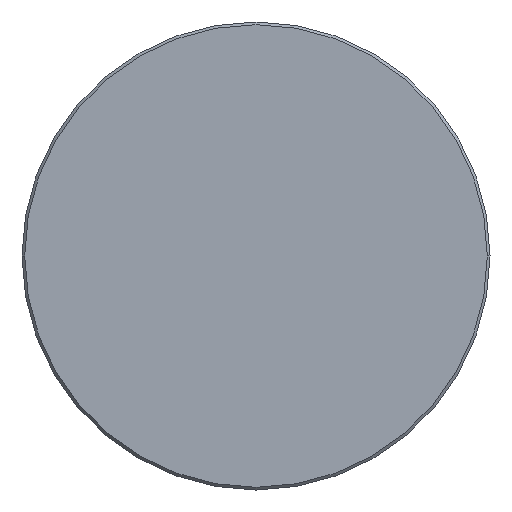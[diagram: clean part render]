
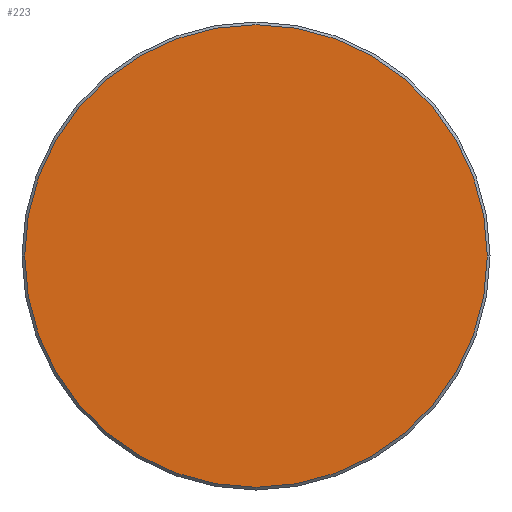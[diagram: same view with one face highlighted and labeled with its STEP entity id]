
A CAD part, left-side view. The second image highlights one B-rep face of the part: STEP entity #223.
In plain terms, the highlighted planar face has unit normal (-1, 0, 0).
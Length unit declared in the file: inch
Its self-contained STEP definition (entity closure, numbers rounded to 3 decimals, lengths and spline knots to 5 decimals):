
#8 = EDGE_CURVE ( 'NONE', #134, #330, #100, .T. ) ;
#17 = PLANE ( 'NONE',  #88 ) ;
#19 = DIRECTION ( 'NONE',  ( -1., 0., 0. ) ) ;
#45 = AXIS2_PLACEMENT_3D ( 'NONE', #87, #263, #91 ) ;
#87 = CARTESIAN_POINT ( 'NONE',  ( 0., 0., 0. ) ) ;
#88 = AXIS2_PLACEMENT_3D ( 'NONE', #104, #19, #276 ) ;
#91 = DIRECTION ( 'NONE',  ( 0., -1., 0. ) ) ;
#100 = CIRCLE ( 'NONE', #45, 0.33975 ) ;
#104 = CARTESIAN_POINT ( 'NONE',  ( 0., 0., 0. ) ) ;
#119 = CARTESIAN_POINT ( 'NONE',  ( 0., 0., 0. ) ) ;
#130 = EDGE_CURVE ( 'NONE', #330, #134, #326, .T. ) ;
#134 = VERTEX_POINT ( 'NONE', #182 ) ;
#169 = EDGE_LOOP ( 'NONE', ( #238, #184 ) ) ;
#182 = CARTESIAN_POINT ( 'NONE',  ( 0., -0.33975, 0. ) ) ;
#184 = ORIENTED_EDGE ( 'NONE', *, *, #8, .T. ) ;
#211 = DIRECTION ( 'NONE',  ( 0., -1., 0. ) ) ;
#223 = ADVANCED_FACE ( 'NONE', ( #368 ), #17, .T. ) ;
#238 = ORIENTED_EDGE ( 'NONE', *, *, #130, .T. ) ;
#263 = DIRECTION ( 'NONE',  ( -1., 0., 0. ) ) ;
#270 = AXIS2_PLACEMENT_3D ( 'NONE', #119, #323, #211 ) ;
#276 = DIRECTION ( 'NONE',  ( 0., -1., 0. ) ) ;
#323 = DIRECTION ( 'NONE',  ( -1., 0., 0. ) ) ;
#326 = CIRCLE ( 'NONE', #270, 0.33975 ) ;
#330 = VERTEX_POINT ( 'NONE', #344 ) ;
#344 = CARTESIAN_POINT ( 'NONE',  ( 0., 0.33975, 0. ) ) ;
#368 = FACE_OUTER_BOUND ( 'NONE', #169, .T. ) ;
